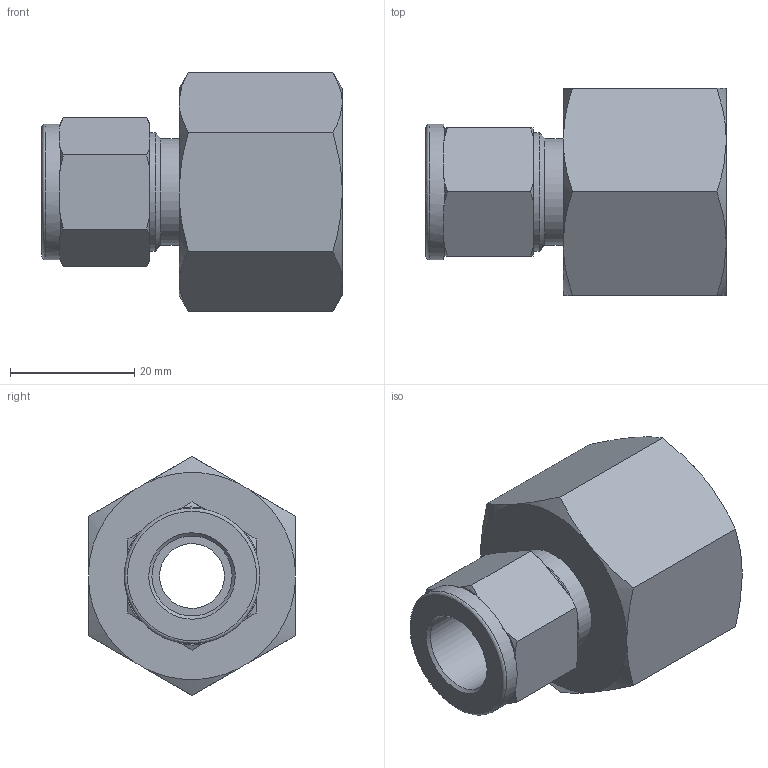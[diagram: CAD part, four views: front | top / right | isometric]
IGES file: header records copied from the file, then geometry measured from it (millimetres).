
Global section: file name: SFC-8-12N; native system: Autodesk Inventor 2016; preprocessor: unknown; author: 배성훈,,11,0; organization: 20151010.061100; date: 20151019.102725; units: millimetre
Bounding box: 48.3 x 33.3 x 38.45 mm (x, y, z)
Volume: 19992.5 mm3; surface area: 8834.9 mm2
Topology: 1 solids, 1 shells, 66 faces, 190 edges, 130 vertices
Faces by surface type: bspline 66
